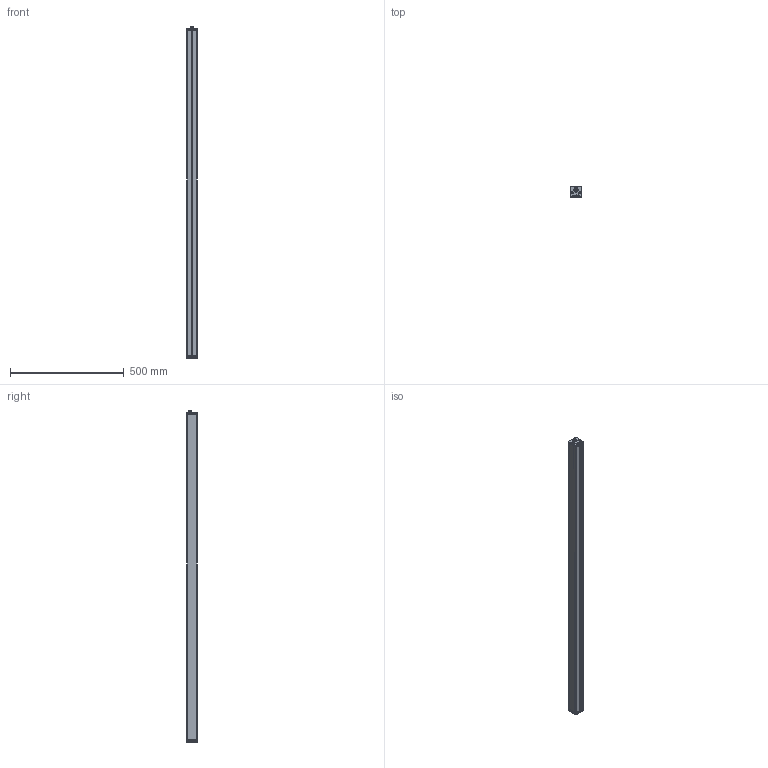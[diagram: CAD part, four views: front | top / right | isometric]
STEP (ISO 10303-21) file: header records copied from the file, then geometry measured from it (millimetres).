
FILE_DESCRIPTION (( 'STEP AP214' ), '1' );
FILE_NAME ('BARMIC20.STEP', '2012-02-17T15:02:53', ( ' ' ), ( '' ), 'SwSTEP 2.0', 'SolidWorks 2009', '' );
FILE_SCHEMA (( 'AUTOMOTIVE_DESIGN' ));
Length unit declared in the file: millimetre
Products named in the file (1): BARMIC20
Bounding box: 47 x 47 x 1457.1 mm (x, y, z)
Volume: 729149.8 mm3; surface area: 717053.1 mm2
Topology: 1 solids, 3 shells, 606 faces, 1606 edges, 1035 vertices
Faces by surface type: plane 316, cylinder 158, bspline 66, torus 38, cone 20, sphere 8
Entity records: 34388 total; most frequent: CARTESIAN_POINT 12906, ORIENTED_EDGE 3180, DIRECTION 2914, EDGE_CURVE 1590, VERTEX_POINT 1027, VECTOR 984, LINE 984, AXIS2_PLACEMENT_3D 965
